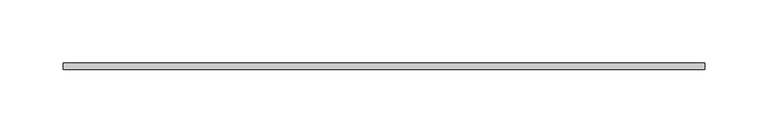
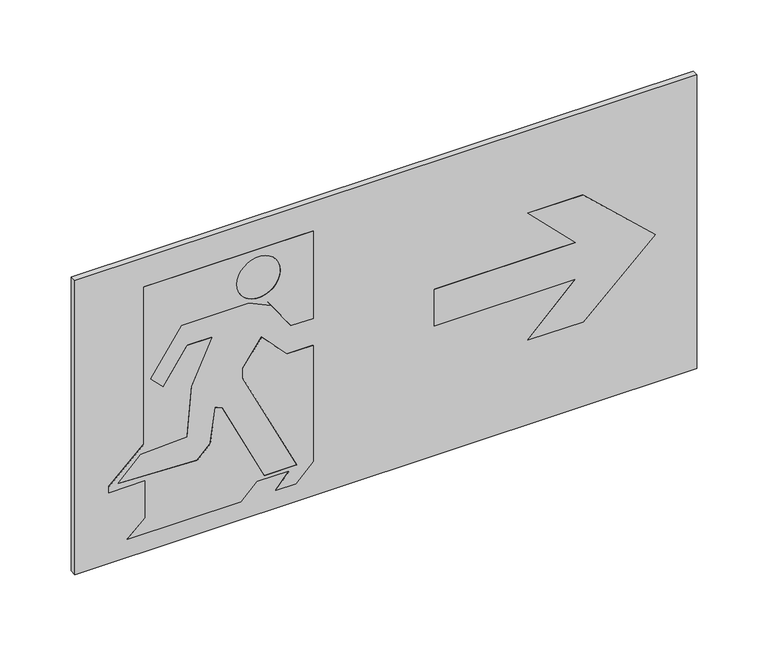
"""IFC4 building model written with IfcOpenShell, lengths in millimetres: flow terminal geometry, PLACA DE SINALIZAÇÃO-S1 : Distancia maxima visibilidade - 10 metros."""

import ifcopenshell
import ifcopenshell.guid

model = None  # the IFC model being written
_history = None  # IfcOwnerHistory: only IFC2X3 demands one
_inside = {}  # id of a spatial element -> (the spatial element, [elements in it])
_under = {}  # id of a project, library or spatial element -> (it, [spatial elements below it])
_declared = {}  # id of a project -> (the project, [libraries it declares])
_typed = {}  # id of a type object -> (the type object, [elements of that type])
_made_of = {}  # id of a material, layer set ... -> (it, [elements and type objects made of it])


def new_model(schema):
    """Start an empty IFC model of exactly this schema.

    Asked for "IFC4X3", IfcOpenShell would pick the latest addendum, in which some entities
    have other attributes; the version numbers below select the first issue.
    IFC2X3 requires an IfcOwnerHistory on every rooted entity: one is made here for all.
    """
    global model, _history
    if schema == "IFC4X3":
        model = ifcopenshell.file(schema_version=(4, 3, 0, 0))
    else:
        model = ifcopenshell.file(schema=schema)
    _inside.clear()
    _under.clear()
    _declared.clear()
    _typed.clear()
    _made_of.clear()
    _history = None
    if model.schema == "IFC2X3":
        org = make("IfcOrganization", Name="unknown")
        user = make(
            "IfcPersonAndOrganization",
            ThePerson=make("IfcPerson", FamilyName="unknown"),
            TheOrganization=org,
        )
        app = make(
            "IfcApplication",
            ApplicationDeveloper=org,
            Version="unknown",
            ApplicationFullName="unknown",
            ApplicationIdentifier="unknown",
        )
        _history = make(
            "IfcOwnerHistory",
            OwningUser=user,
            OwningApplication=app,
            ChangeAction="ADDED",
            CreationDate=0,
        )
    return model


def make(cls, **values):
    """One entity of the class cls with the attributes given. An attribute that is None is left unset."""
    return model.create_entity(
        cls, **{name: value for name, value in values.items() if value is not None}
    )


def rooted(cls, **values):
    """An entity with a GlobalId (a new one), such as an element, a storey or a relation."""
    return make(cls, GlobalId=ifcopenshell.guid.new(), OwnerHistory=_history, **values)


def si_unit(unit_type, name, prefix=None):
    """IfcSIUnit, for example si_unit("LENGTHUNIT", "METRE", prefix="MILLI")."""
    return make("IfcSIUnit", UnitType=unit_type, Prefix=prefix, Name=name)


def assignment(units):
    """IfcUnitAssignment: the units of a project."""
    return None if units is None else make("IfcUnitAssignment", Units=units)


def point(xyz):
    """IfcCartesianPoint."""
    return None if xyz is None else make("IfcCartesianPoint", Coordinates=xyz)


def direction(xyz):
    """IfcDirection."""
    return None if xyz is None else make("IfcDirection", DirectionRatios=xyz)


def frame(location, z_axis=None, x_axis=None):
    """IfcAxis2Placement3D, a coordinate frame: its origin and axes. An axis left out is left unset."""
    return make(
        "IfcAxis2Placement3D",
        Location=point(location),
        Axis=direction(z_axis),
        RefDirection=direction(x_axis),
    )


def frame_2d(location, x_axis=None):
    """IfcAxis2Placement2D, a coordinate frame in the plane: its origin and x axis."""
    return make(
        "IfcAxis2Placement2D", Location=point(location), RefDirection=direction(x_axis)
    )


def origin():
    """The frame at (0, 0, 0) with its axes left unset."""
    return frame((0.0, 0.0, 0.0))


def place(relative_to, where):
    """IfcLocalPlacement: puts the frame where relative to a parent placement (None: the world)."""
    return make(
        "IfcLocalPlacement", PlacementRelTo=relative_to, RelativePlacement=where
    )


def context(
    kind, dimensions, precision=None, world=None, true_north=None, identifier=None
):
    """IfcGeometricRepresentationContext, for example the 3D "Model" context."""
    return make(
        "IfcGeometricRepresentationContext",
        ContextIdentifier=identifier,
        ContextType=kind,
        CoordinateSpaceDimension=dimensions,
        Precision=precision,
        WorldCoordinateSystem=world,
        TrueNorth=true_north,
    )


def project(units=None, contexts=None):
    """IfcProject with its units and contexts."""
    return rooted(
        "IfcProject",
        Name="project",
        RepresentationContexts=contexts,
        UnitsInContext=assignment(units),
    )


def spatial(cls, under=None, at=None, **own):
    """A site, building, storey or space (cls), placed at a placement, below another one or the project."""
    s = rooted(cls, ObjectPlacement=at, **own)
    if under is not None:
        _under.setdefault(under.id(), (under, []))[1].append(s)
    return s


def polyline(points):
    """IfcPolyline through the points."""
    return make("IfcPolyline", Points=[point(p) for p in points])


def circle_curve(where, radius):
    """IfcCircle in the frame where."""
    return make("IfcCircle", Position=where, Radius=radius)


def trimmed(basis, trim1, trim2, sense, master):
    """IfcTrimmedCurve: the piece of a basis curve between two trims."""
    return make(
        "IfcTrimmedCurve",
        BasisCurve=basis,
        Trim1=trim1,
        Trim2=trim2,
        SenseAgreement=sense,
        MasterRepresentation=master,
    )


def segment(curve, same_sense, transition):
    """IfcCompositeCurveSegment."""
    return make(
        "IfcCompositeCurveSegment",
        Transition=transition,
        SameSense=same_sense,
        ParentCurve=curve,
    )


def composite_curve(segments, self_intersect=None):
    """IfcCompositeCurve: segments joined end to end."""
    return make("IfcCompositeCurve", Segments=segments, SelfIntersect=self_intersect)


def outline(outer, holes=None, kind="AREA"):
    """IfcArbitraryClosedProfileDef: a profile drawn as a closed curve; with holes, ...WithVoids."""
    if holes is None:
        return make("IfcArbitraryClosedProfileDef", ProfileType=kind, OuterCurve=outer)
    return make(
        "IfcArbitraryProfileDefWithVoids",
        ProfileType=kind,
        OuterCurve=outer,
        InnerCurves=holes,
    )


def extrude(swept, where, along, depth):
    """IfcExtrudedAreaSolid: the profile swept, set in the frame where, extruded along a direction by depth."""
    return make(
        "IfcExtrudedAreaSolid",
        SweptArea=swept,
        Position=where,
        ExtrudedDirection=direction(along),
        Depth=depth,
    )


def shape(context_of_items, identifier, shape_type, items):
    """IfcShapeRepresentation: the items that make up one representation, for example the "Body"."""
    return make(
        "IfcShapeRepresentation",
        ContextOfItems=context_of_items,
        RepresentationIdentifier=identifier,
        RepresentationType=shape_type,
        Items=items,
    )


def source(mapping_origin, context_of_items, identifier, shape_type, items):
    """IfcRepresentationMap: a shape defined once, which mapped items show again and again."""
    return make(
        "IfcRepresentationMap",
        MappingOrigin=mapping_origin,
        MappedRepresentation=shape(context_of_items, identifier, shape_type, items),
    )


def transform(
    local_origin,
    x_axis=None,
    y_axis=None,
    z_axis=None,
    scale=None,
    scale2=None,
    scale3=None,
    uniform=True,
):
    """IfcCartesianTransformationOperator3D, or its non-uniform kind. x_axis, y_axis, z_axis: its Axis1, 2, 3."""
    if uniform:
        return make(
            "IfcCartesianTransformationOperator3D",
            Axis1=direction(x_axis),
            Axis2=direction(y_axis),
            LocalOrigin=point(local_origin),
            Scale=scale,
            Axis3=direction(z_axis),
        )
    return make(
        "IfcCartesianTransformationOperator3DnonUniform",
        Axis1=direction(x_axis),
        Axis2=direction(y_axis),
        LocalOrigin=point(local_origin),
        Scale=scale,
        Axis3=direction(z_axis),
        Scale2=scale2,
        Scale3=scale3,
    )


def mapped(mapping_source, mapping_target):
    """IfcMappedItem: shows the shape of a source again, moved by a transform."""
    return make(
        "IfcMappedItem", MappingSource=mapping_source, MappingTarget=mapping_target
    )


def made_of(thing, what):
    """Note that an element or type object is made of a material, layer set ...; save() writes the relation."""
    if what is not None:
        _made_of.setdefault(what.id(), (what, []))[1].append(thing)
    return thing


def element(
    cls,
    number,
    at=None,
    inside=None,
    cuts=None,
    type_object=None,
    material=None,
    context=None,
    identifier="Body",
    shape_type=None,
    held_by="IfcProductDefinitionShape",
    body=None,
    shapes=None,
    **own,
):
    """One element of the class cls, such as IfcWall. Its Tag is "e" and its number.

    at: its placement. inside: the storey or other place that contains it. cuts: it is an
    opening in that element (IfcRelVoidsElement). A single representation is given by context,
    identifier, shape_type and body (its items); several are given by shapes. held_by: the class
    of the entity that holds the representations. save() writes the other relations.
    """
    e = rooted(cls, Tag="e%d" % number, ObjectPlacement=at, **own)
    if body is not None:
        shapes = [shape(context, identifier, shape_type, body)]
    if shapes is not None:
        e.Representation = make(held_by, Representations=shapes)
    if inside is not None:
        _inside.setdefault(inside.id(), (inside, []))[1].append(e)
    if cuts is not None:
        rooted(
            "IfcRelVoidsElement", RelatingBuildingElement=cuts, RelatedOpeningElement=e
        )
    if type_object is not None:
        _typed.setdefault(type_object.id(), (type_object, []))[1].append(e)
    return made_of(e, material)


def aggregate(whole, parts):
    """IfcRelAggregates: a whole, such as a stair, and the parts it consists of."""
    return rooted("IfcRelAggregates", RelatingObject=whole, RelatedObjects=parts)


def save(model, path):
    """Write the relations noted so far, then the file.

    IfcRelAggregates (storeys below a building ...), IfcRelContainedInSpatialStructure (elements
    in a storey), IfcRelDefinesByType, IfcRelAssociatesMaterial and IfcRelDeclares: one each for
    every whole, place, type object, material and project.
    """
    for whole, parts in _under.values():
        aggregate(whole, parts)
    for where, things in _inside.values():
        rooted(
            "IfcRelContainedInSpatialStructure",
            RelatedElements=things,
            RelatingStructure=where,
        )
    for kind, things in _typed.values():
        rooted("IfcRelDefinesByType", RelatedObjects=things, RelatingType=kind)
    for what, things in _made_of.values():
        rooted("IfcRelAssociatesMaterial", RelatedObjects=things, RelatingMaterial=what)
    for by, libraries in _declared.values():
        rooted("IfcRelDeclares", RelatingContext=by, RelatedDefinitions=libraries)
    model.write(path)


def flow_terminal_106c1e76(model_context):
    return source(origin(), model_context, "Body", "SweptSolid", [
        extrude(outline(polyline([(227.5181482, -196.8742696), (92.5181482, -196.8742696), (65.9369645, -225.3895957), (60.6779692, -225.3895957), (60.6779692, -195.3895957), (28.597425, -195.3895957), (15.2148129, -210.2524922), (15.2148129, -117.8306236), (28.3250785, -104.7203579), (28.3250785, -78.5757912), (15.2148129, -89.5766102), (15.2148129, -73.2629536), (29.3569485, -59.1208179), (129.3569485, -59.1208179), (129.3569485, -80.5419215), (151.2975595, -101.0018723), (129.5264142, -116.2461924), (120.894616, -116.2461924), (31.0152114, -72.4090777), (31.0152114, -98.8449759), (101.133451, -133.0439264), (103.7380726, -138.6295555), (74.0300305, -142.8047485), (63.4234288, -153.4113502), (65.6918961, -218.371754), (84.4683967, -199.5952534), (86.4413826, -161.948438), (128.7610956, -158.2459429), (165.0134071, -141.3412125), (165.0134071, -161.3412125), (135.997092, -180.9129641), (146.6036937, -191.5195658), (183.9103845, -166.3558851), (183.9103845, -111.3558851), (175.4580193, -93.2297294), (152.5181482, -77.1670587), (152.5181482, -59.1208179), (227.5181482, -59.1208179), (227.5181482, -196.8742696)]), holes=[composite_curve([segment(trimmed(circle_curve(frame_2d((203.3084844, -103.3946644)), 17.7066682), [point((203.3084844, -85.6879962))], [point((203.3084844, -121.1013325))], True, "CARTESIAN"), True, "CONTINUOUS"), segment(trimmed(circle_curve(frame_2d((203.3084844, -103.3946644)), 17.7066682), [point((203.3084844, -121.1013325))], [point((203.3084844, -85.6879962))], True, "CARTESIAN"), True, "CONTINUOUS")], self_intersect=False)]), frame((0.0, -5.0, 0.0), z_axis=(0.0, 1.0, 0.0), x_axis=(0.0, 0.0, 1.0)), (0.0, 0.0, 1.0), 5.0),
        extrude(outline(polyline([(142.9136865, 39.3189341), (111.5756948, 39.3189341), (111.5756948, 154.3189341), (72.6848219, 115.4280611), (72.6848219, 160.4280611), (127.2446907, 218.9363573), (181.8045595, 160.4280611), (181.8045595, 115.4280611), (142.9136865, 154.3189341), (142.9136865, 39.3189341)])), frame((0.0, -5.0, 0.0), z_axis=(0.0, 1.0, 0.0), x_axis=(0.0, 0.0, 1.0)), (0.0, 0.0, 1.0), 5.0),
        extrude(outline(polyline([(0.0, 253.0), (253.0, 253.0), (253.0, -253.0), (0.0, -253.0), (0.0, 253.0)]), holes=[polyline([(142.9136865, 154.3189341), (181.8045595, 115.4280611), (181.8045595, 160.4280611), (127.2446907, 218.9363573), (72.6848219, 160.4280611), (72.6848219, 115.4280611), (111.5756948, 154.3189341), (111.5756948, 39.3189341), (142.9136865, 39.3189341), (142.9136865, 154.3189341)]), polyline([(227.5181482, -196.8742696), (227.5181482, -59.1208179), (152.5181482, -59.1208179), (152.5181482, -77.1670587), (175.4580193, -93.2297294), (183.9103845, -111.3558851), (183.9103845, -166.3558851), (146.6036937, -191.5195658), (135.997092, -180.9129641), (165.0134071, -161.3412125), (165.0134071, -141.3412125), (128.7610956, -158.2459429), (86.4413826, -161.948438), (84.4683967, -199.5952534), (65.6918961, -218.371754), (63.4234288, -153.4113502), (74.0300305, -142.8047485), (103.7380726, -138.6295555), (101.133451, -133.0439264), (31.0152114, -98.8449759), (31.0152114, -72.4090777), (120.894616, -116.2461924), (129.5264142, -116.2461924), (151.2975595, -101.0018723), (129.3569485, -80.5419215), (129.3569485, -59.1208179), (29.3569485, -59.1208179), (15.2148129, -73.2629536), (15.2148129, -89.5766102), (28.3250785, -78.5757912), (28.3250785, -104.7203579), (15.2148129, -117.8306236), (15.2148129, -210.2524922), (28.597425, -195.3895957), (60.6779692, -195.3895957), (60.6779692, -225.3895957), (65.9369645, -225.3895957), (92.5181482, -196.8742696), (227.5181482, -196.8742696)])]), frame((0.0, -5.0, 0.0), z_axis=(0.0, 1.0, 0.0), x_axis=(0.0, 0.0, 1.0)), (0.0, 0.0, 1.0), 5.0),
        extrude(outline(composite_curve([segment(trimmed(circle_curve(frame_2d((203.3084844, -103.3946644)), 17.7066682), [point((203.3084844, -121.1013325))], [point((203.3084844, -85.6879962))], False, "CARTESIAN"), True, "CONTINUOUS"), segment(trimmed(circle_curve(frame_2d((203.3084844, -103.3946644)), 17.7066682), [point((203.3084844, -85.6879962))], [point((203.3084844, -121.1013325))], False, "CARTESIAN"), True, "CONTINUOUS")], self_intersect=False)), frame((0.0, -5.0, 0.0), z_axis=(0.0, 1.0, 0.0), x_axis=(0.0, 0.0, 1.0)), (0.0, 0.0, 1.0), 5.0),
    ])


if __name__ == "__main__":
    model = new_model("IFC4")
    model_context = context("Model", 3, world=origin())
    ifc_project = project(units=[si_unit("LENGTHUNIT", "METRE", prefix="MILLI")], contexts=[model_context])
    site = spatial("IfcSite", under=ifc_project)
    building = spatial("IfcBuilding", under=site)
    placement = place(None, origin())
    flow_terminal_shape = flow_terminal_106c1e76(model_context)
    element("IfcFlowTerminal", 1, ObjectType="PLACA DE SINALIZAÇÃO-S1 : Distancia maxima visibilidade - 10 metros", at=placement, inside=building, context=model_context, shape_type="MappedRepresentation", body=[
        mapped(flow_terminal_shape, transform((0.0, 0.0, 0.0), x_axis=(1.0, 0.0, 0.0), y_axis=(0.0, 1.0, 0.0), z_axis=(0.0, 0.0, 1.0))),
    ])
    save(model, "model.ifc")
